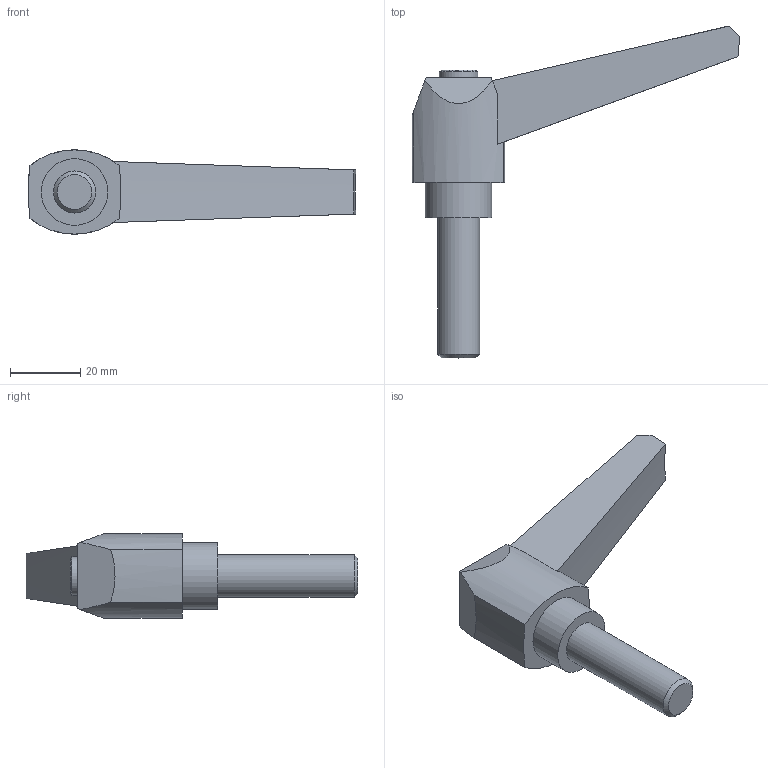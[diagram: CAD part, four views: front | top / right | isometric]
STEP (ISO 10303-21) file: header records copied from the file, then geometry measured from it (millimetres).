
FILE_DESCRIPTION( ( 'STEP AP203' ), '1' );
FILE_NAME( 'C:/Temp/Ganter_Step_05_03_2020/data/2_1/gn_500/gn_500_ms/Adjustable hand lever GN 500-80-M12-40-SW.stp', '2020-03-05T11:26:38', ( 'License CC BY-ND 4.0' ), ( 'CADENAS' ), ' ', 'PARTsolutions', ' ' );
FILE_SCHEMA( ( 'CONFIG_CONTROL_DESIGN' ) );
Length unit declared in the file: millimetre
Products named in the file (1): _Adjustable hand lever GN 500-80-M12-40-SW
Bounding box: 93.3 x 94.58 x 24 mm (x, y, z)
Volume: 37256.7 mm3; surface area: 9382.7 mm2
Topology: 1 solids, 1 shells, 24 faces, 56 edges, 37 vertices
Faces by surface type: plane 11, cylinder 7, cone 6
Full cylindrical faces by diameter (mm): 11 x1, 12 x1, 19 x1
Entity records: 709 total; most frequent: CARTESIAN_POINT 124, DIRECTION 118, ORIENTED_EDGE 100, EDGE_CURVE 50, AXIS2_PLACEMENT_3D 47, VERTEX_POINT 36, EDGE_LOOP 32, FACE_OUTER_BOUND 27
